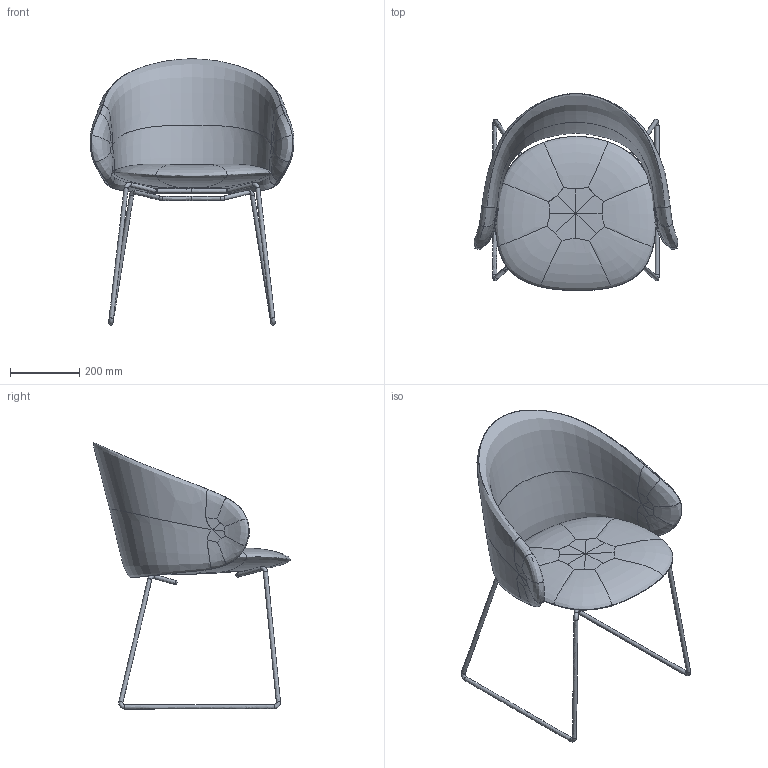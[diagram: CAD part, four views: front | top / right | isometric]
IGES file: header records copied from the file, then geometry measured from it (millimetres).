
Start section:  Autodesk Maya version 2019 IGES version 5.3  Autodesk Maya version 2019 IGES version 5.3
Global section: file name: C:\Users\Workstation2\Desktop\ARM_SLED.igs; native system: Rhinoceros ( Mar 28 2013 ); preprocessor: Trout Lake IGES 012 Mar 28 2013; date: 200225.104405; units: millimetre
Bounding box: 589.39 x 569.26 x 769.1 mm (x, y, z)
Surface area: 1153676.1 mm2 (no closed solid volume)
Topology: 0 solids, 0 shells, 78 faces, 286 edges, 260 vertices
Faces by surface type: bspline 78
